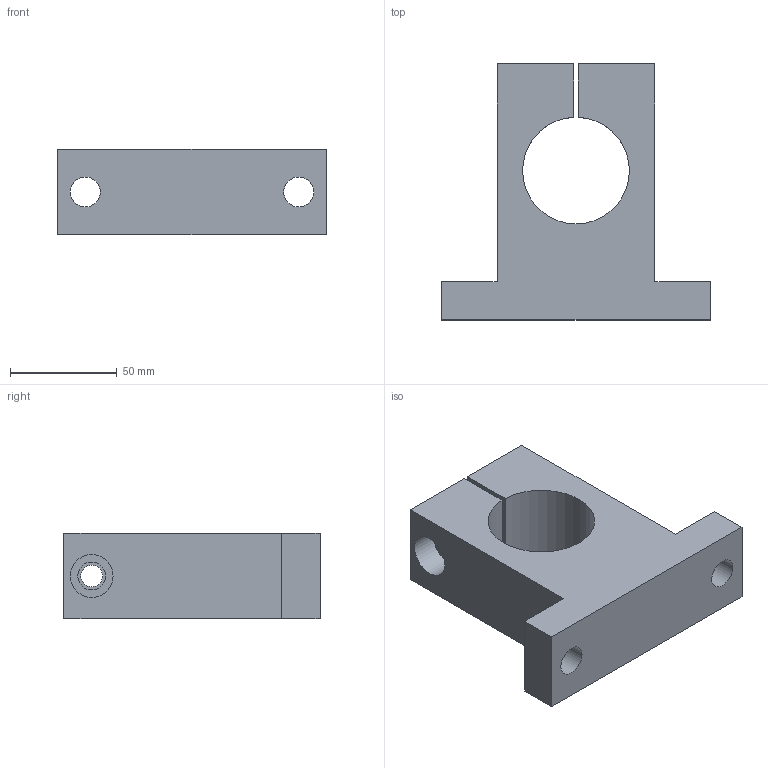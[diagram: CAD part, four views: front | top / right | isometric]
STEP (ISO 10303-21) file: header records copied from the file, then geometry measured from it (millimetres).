
FILE_DESCRIPTION(/* description */ ('Unknown'),/* implementation_level */ '2;1');
FILE_NAME(/* name */ 'SK50',/* time_stamp */ '2025-02-04T09:08:50+08:00',/* author */ ('Unknown'),/* organization */ ('Unknown'),/* preprocessor_version */ 'ST-DEVELOPER v18.102',/* originating_system */ 'Solid Edge',/* authorisation */ 'Unknown');
FILE_SCHEMA (('AUTOMOTIVE_DESIGN {1 0 10303 214 3 1 1}'));
Length unit declared in the file: millimetre
Products named in the file (1): SK50
Bounding box: 126 x 120 x 40 mm (x, y, z)
Volume: 296570 mm3; surface area: 46847.2 mm2
Topology: 1 solids, 1 shells, 20 faces, 52 edges, 35 vertices
Faces by surface type: plane 14, cylinder 6
Full cylindrical faces by diameter (mm): 10.2 x1, 13 x1, 14 x2, 20 x1
Entity records: 628 total; most frequent: CARTESIAN_POINT 101, DIRECTION 100, ORIENTED_EDGE 92, EDGE_CURVE 46, VERTEX_POINT 34, LINE 34, VECTOR 34, EDGE_LOOP 34
